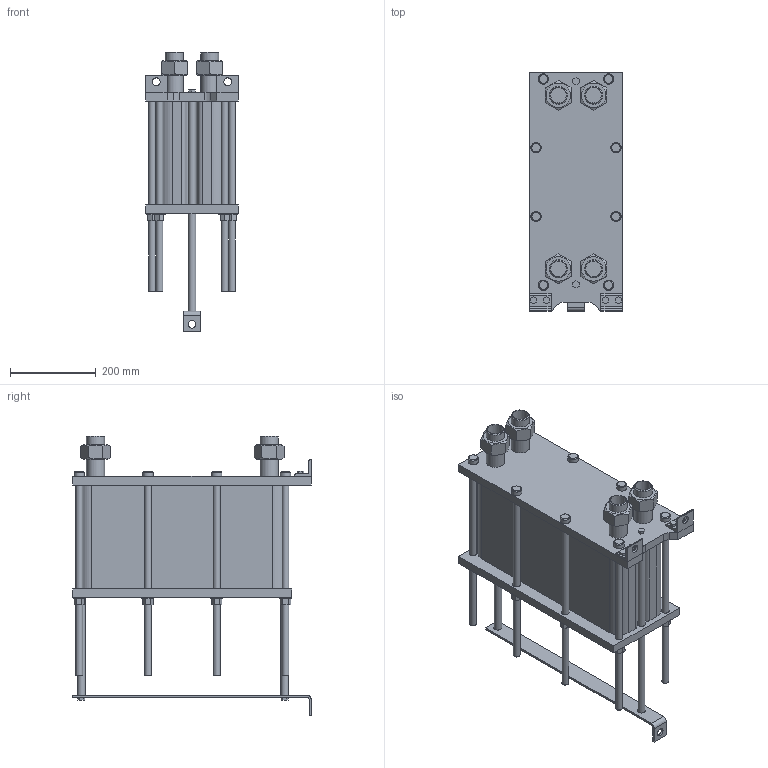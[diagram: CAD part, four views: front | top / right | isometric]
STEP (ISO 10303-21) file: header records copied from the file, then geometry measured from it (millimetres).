
FILE_DESCRIPTION(/* description */ (''),/* implementation_level */ '2;1');
FILE_NAME(/* name */ 'C:\Users\zhuro\Desktop\ENCO\TO\ЭН-004\ЭН-0,5-004-78-1.stp',/* time_stamp */ '2022-06-06T10:49:57+03:00',/* author */ ('zhuro'),/* organization */ (''),/* preprocessor_version */ 'ST-DEVELOPER v18.1',/* originating_system */ 'Autodesk Inventor 2022',/* authorisation */ '');
FILE_SCHEMA (('AUTOMOTIVE_DESIGN { 1 0 10303 214 3 1 1 }'));
Length unit declared in the file: millimetre
Products named in the file (1): ЭН-0,5-004-78-1
Bounding box: 216 x 555 x 651.4 mm (x, y, z)
Volume: 23811373.2 mm3; surface area: 1482360.3 mm2
Topology: 40 solids, 40 shells, 403 faces, 865 edges, 574 vertices
Faces by surface type: plane 272, cylinder 103, cone 28
Full cylindrical faces by diameter (mm): 10 x4, 16 x16, 18 x29, 20 x2, 24 x8, 28 x8, 36.3 x5, 42.3 x9
Entity records: 11137 total; most frequent: CARTESIAN_POINT 1939, DIRECTION 1879, ORIENTED_EDGE 1730, EDGE_CURVE 865, AXIS2_PLACEMENT_3D 658, VERTEX_POINT 574, LINE 563, VECTOR 563
